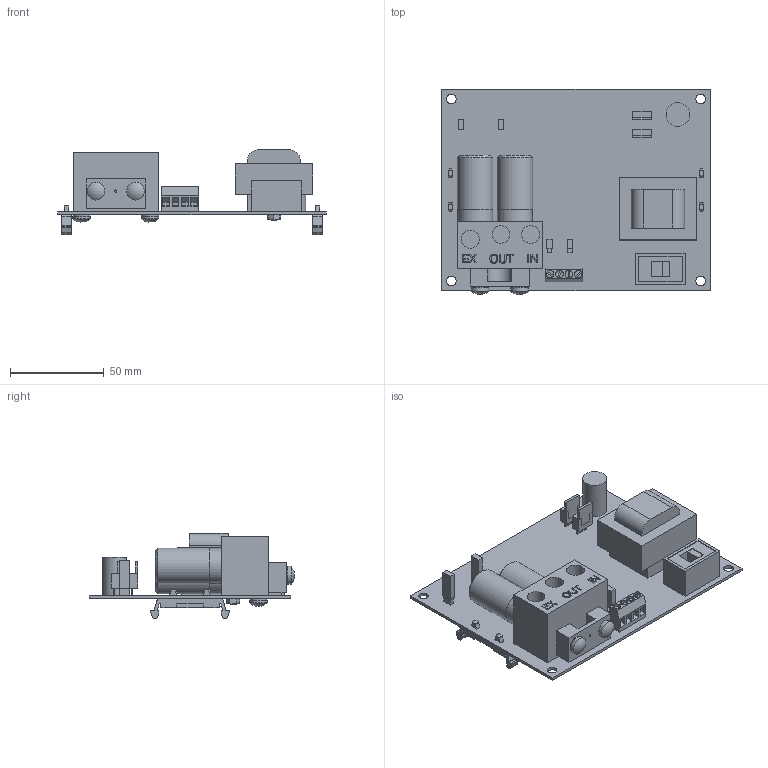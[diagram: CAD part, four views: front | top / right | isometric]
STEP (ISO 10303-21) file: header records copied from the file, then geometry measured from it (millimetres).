
FILE_DESCRIPTION((''),'2;1');
FILE_NAME('J:\WIP\Magpowr WEB\3D (Models)\Tension Controls\Presssure Transducer\IPT\IPT.stp','2012-10-25T10:15:16',('lzuniga'),(''),'Autodesk Inventor 2012','Autodesk Inventor 2012','');
FILE_SCHEMA(('AUTOMOTIVE_DESIGN { 1 0 10303 214 1 1 1 1 }'));
Length unit declared in the file: inch
Products named in the file (1): IPT
Bounding box: 143.51 x 109.65 x 45.54 mm (x, y, z)
Volume: 132673.1 mm3; surface area: 55809.5 mm2
Topology: 2 solids, 3 shells, 438 faces, 1114 edges, 741 vertices
Faces by surface type: plane 352, cylinder 58, bspline 14, cone 10, sphere 4
Full cylindrical faces by diameter (mm): 1.27 x1, 3.048 x2, 3.556 x1, 4.051 x4, 5.182 x4, 8.89 x1, 9.144 x2, 9.474 x2, 9.525 x5, 12.7 x1, 18.796 x2, 19.05 x2
Entity records: 13433 total; most frequent: CARTESIAN_POINT 2500, ORIENTED_EDGE 2152, DIRECTION 2028, EDGE_CURVE 1076, VECTOR 886, LINE 886, VERTEX_POINT 732, AXIS2_PLACEMENT_3D 571
